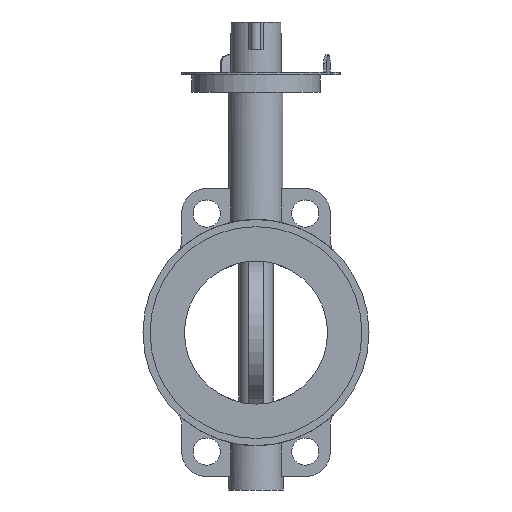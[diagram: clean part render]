
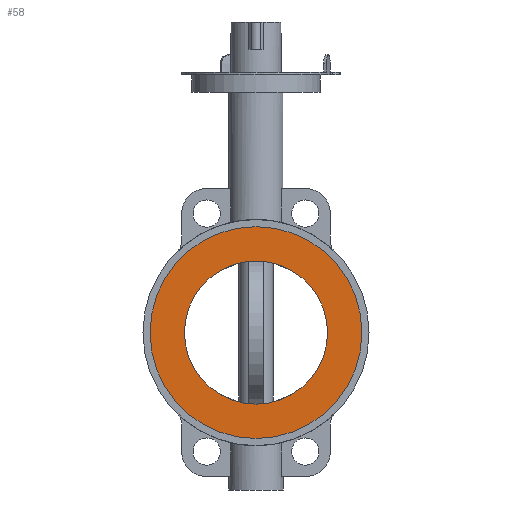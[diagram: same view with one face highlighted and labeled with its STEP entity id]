
A CAD part, left-side view. The second image highlights one B-rep face of the part: STEP entity #58.
In plain terms, the highlighted planar face has unit normal (-1, 0, 0).
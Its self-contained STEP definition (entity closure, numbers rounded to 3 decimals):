
#58=ADVANCED_FACE('',(#6691,#6693),#6695,.F.);
#6691=FACE_BOUND('',#6692,.T.);
#6692=EDGE_LOOP('',(#11984));
#6693=FACE_BOUND('',#6694,.T.);
#6694=EDGE_LOOP('',(#11985));
#6695=PLANE('',#6696);
#6696=AXIS2_PLACEMENT_3D('',#6697,#6698,#6699);
#6697=CARTESIAN_POINT('',(-26.,0.,0.));
#6698=DIRECTION('',(1.,0.,0.));
#6699=DIRECTION('',(0.,1.,0.));
#11984=ORIENTED_EDGE('',*,*,#16237,.T.);
#11985=ORIENTED_EDGE('',*,*,#16238,.T.);
#16237=EDGE_CURVE('',#18395,#18395,#18396,.F.);
#16238=EDGE_CURVE('',#18397,#18397,#18398,.T.);
#18395=VERTEX_POINT('',#21956);
#18396=CIRCLE('',#21957,74.);
#18397=VERTEX_POINT('',#21961);
#18398=CIRCLE('',#21962,50.);
#21956=CARTESIAN_POINT('',(-26.,74.,0.));
#21957=AXIS2_PLACEMENT_3D('',#21958,#21959,#21960);
#21958=CARTESIAN_POINT('',(-26.,0.,0.));
#21959=DIRECTION('',(1.,0.,0.));
#21960=DIRECTION('',(0.,1.,0.));
#21961=CARTESIAN_POINT('',(-26.,50.,0.));
#21962=AXIS2_PLACEMENT_3D('',#21963,#21964,#21965);
#21963=CARTESIAN_POINT('',(-26.,0.,0.));
#21964=DIRECTION('',(1.,0.,0.));
#21965=DIRECTION('',(0.,1.,0.));
